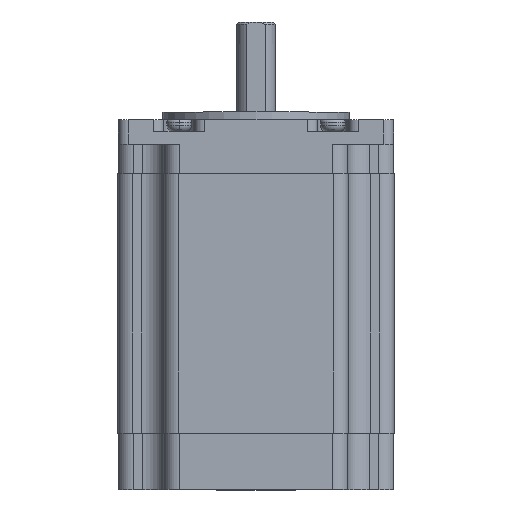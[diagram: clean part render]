
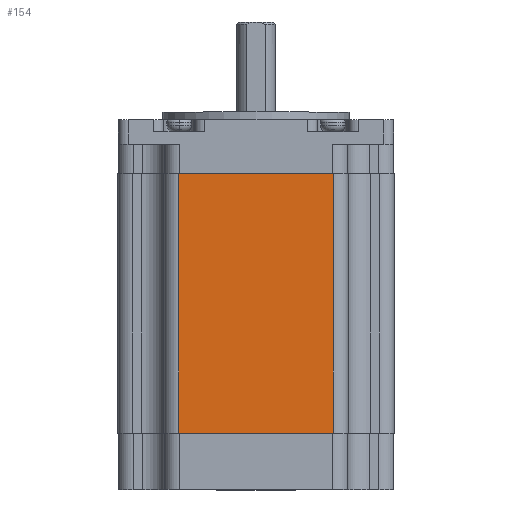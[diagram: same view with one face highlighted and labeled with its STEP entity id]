
A CAD part, top view. The second image highlights one B-rep face of the part: STEP entity #154.
In plain terms, the highlighted planar face has unit normal (0, 0, 1).
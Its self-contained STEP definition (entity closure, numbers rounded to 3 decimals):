
#154 = ADVANCED_FACE ( 'NONE', ( #3219 ), #6738, .F. ) ;
#286 = EDGE_LOOP ( 'NONE', ( #1430, #7972, #7183, #6177 ) ) ;
#583 = CARTESIAN_POINT ( 'NONE',  ( -15.8, 0., 28.2 ) ) ;
#999 = EDGE_CURVE ( 'NONE', #8139, #7138, #9133, .T. ) ;
#1302 = VECTOR ( 'NONE', #3044, 1000. ) ;
#1430 = ORIENTED_EDGE ( 'NONE', *, *, #6349, .T. ) ;
#1477 = EDGE_CURVE ( 'NONE', #8139, #3255, #4155, .T. ) ;
#1545 = DIRECTION ( 'NONE',  ( 0., -1., 0. ) ) ;
#2303 = CARTESIAN_POINT ( 'NONE',  ( 18.8, 53., 28.2 ) ) ;
#2552 = DIRECTION ( 'NONE',  ( -1., 0., 0. ) ) ;
#2671 = DIRECTION ( 'NONE',  ( 0., 1., 0. ) ) ;
#2922 = DIRECTION ( 'NONE',  ( 1., 0., 0. ) ) ;
#2937 = DIRECTION ( 'NONE',  ( 0., 0., -1. ) ) ;
#3044 = DIRECTION ( 'NONE',  ( 1., 0., 0. ) ) ;
#3219 = FACE_OUTER_BOUND ( 'NONE', #286, .T. ) ;
#3255 = VERTEX_POINT ( 'NONE', #8838 ) ;
#3514 = LINE ( 'NONE', #7040, #9103 ) ;
#3845 = CARTESIAN_POINT ( 'NONE',  ( -15.8, 53., 28.2 ) ) ;
#3887 = AXIS2_PLACEMENT_3D ( 'NONE', #9009, #2937, #2552 ) ;
#3920 = VECTOR ( 'NONE', #2922, 1000. ) ;
#4099 = EDGE_CURVE ( 'NONE', #8277, #3255, #3514, .T. ) ;
#4155 = LINE ( 'NONE', #2303, #3920 ) ;
#5004 = LINE ( 'NONE', #7415, #1302 ) ;
#5270 = VECTOR ( 'NONE', #1545, 1000. ) ;
#6177 = ORIENTED_EDGE ( 'NONE', *, *, #999, .T. ) ;
#6349 = EDGE_CURVE ( 'NONE', #7138, #8277, #5004, .T. ) ;
#6738 = PLANE ( 'NONE',  #3887 ) ;
#7040 = CARTESIAN_POINT ( 'NONE',  ( 15.8, 53., 28.2 ) ) ;
#7138 = VERTEX_POINT ( 'NONE', #583 ) ;
#7183 = ORIENTED_EDGE ( 'NONE', *, *, #1477, .F. ) ;
#7415 = CARTESIAN_POINT ( 'NONE',  ( 18.8, 0., 28.2 ) ) ;
#7972 = ORIENTED_EDGE ( 'NONE', *, *, #4099, .T. ) ;
#8065 = CARTESIAN_POINT ( 'NONE',  ( 15.8, 0., 28.2 ) ) ;
#8139 = VERTEX_POINT ( 'NONE', #9420 ) ;
#8277 = VERTEX_POINT ( 'NONE', #8065 ) ;
#8838 = CARTESIAN_POINT ( 'NONE',  ( 15.8, 53., 28.2 ) ) ;
#9009 = CARTESIAN_POINT ( 'NONE',  ( 18.8, 53., 28.2 ) ) ;
#9103 = VECTOR ( 'NONE', #2671, 1000. ) ;
#9133 = LINE ( 'NONE', #3845, #5270 ) ;
#9420 = CARTESIAN_POINT ( 'NONE',  ( -15.8, 53., 28.2 ) ) ;
